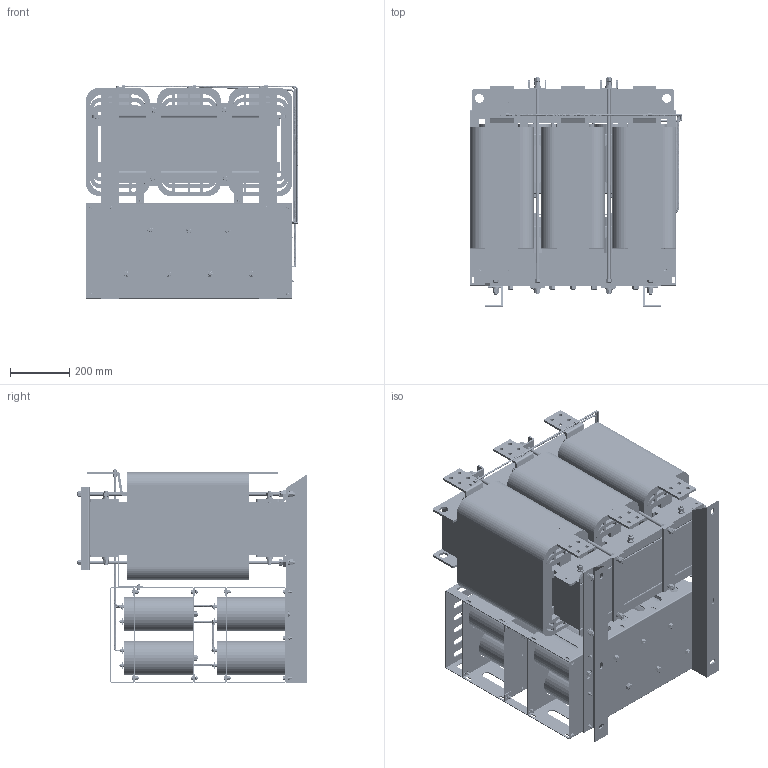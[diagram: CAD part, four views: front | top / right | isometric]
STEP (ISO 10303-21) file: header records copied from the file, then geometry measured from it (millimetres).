
FILE_DESCRIPTION(('STEP AP203'), '1');
FILE_NAME('蔓躅漤铋 耔眢耥 翳朦蝠 _ ISINOF-900_980-6', '', ('UNSPECIFIED'), ('UNSPECIFIED'), 'C3D Converter', 'C3D Toolkit', '');
FILE_SCHEMA(('CONFIG_CONTROL_DESIGN'));
Length unit declared in the file: millimetre
Products named in the file (53): ISINOF-900/980-6; UРНС№Мх 60x30x6; 愧X2\0437\X0\琵X2\0410\X0\ іЕМх; №么X2\04270426041C0445\X0\12x10x410; А降еМх660-110-2; А降еМх琵X2\0436\X0\豹X2\0435\X0\; ЖЅ豹X2\043504560415\X0\豹X2\0435\X0\30X12X410; ЖЅ豹X2\043504560415\X0\豹X2\0435\X0\50X20X410; ИэПаМъРѕ590-660-176; ПЯИ¦940A; ЙПјРјю; ПВјРјю; С№豹X2\0435\X0\; 琵X2\04270405041504230422\X0\; 琵X2\04270405041504270443\X0\; plain washers--product grade c gb_GB_FASTENER_WASHER_SMWC 12; spring lock washers--normal type gb_GB_FASTENER_WASHER_SW 12; hexagon nuts grade c gb_GB_FASTENER_NUT_SNC1 M12-N; hex head bolts-full thread grade c gb_GB_FASTENER_BOLT_HHBFTC M12X40-N; M12X250; M12X730; 吒X2\0425\X0\116-230; 琵X2\04370418042D0458042C\X0\; Ц吭X2\0458042C\X0\; LРНіЕМх; ёЗЧУ; plain washers--product grade c gb_GB_FASTENER_WASHER_SMWC 6; spring lock washers--normal type gb_GB_FASTENER_WASHER_SW 6; hexagon nuts grade c gb_GB_FASTENER_NUT_SNC1 M6-N; hex head bolts-full thread grade c gb_GB_FASTENER_BOLT_HHBFTC M6X20-N; ёІН苒X2\04120411041504150419041F\X0\; ДёЕЕПВ; Б枯X2\04050423\X0\豹X2\0435\X0\; RNB14-6S; Б枯X2\04050423\X0\豹X2\0435\X0\2; hex head bolts-full thread grade c gb_GB_FASTENER_BOLT_HHBFTC M6X25-N; hex head bolts-full thread grade c gb_GB_FASTENER_BOLT_HHBFTC M6X16-N; Cable_1-ИэПаХэПТІЁВЛІЁЖч SKS-SF-0940-6AЈЇ05; 琵X2\043704100412\X0\^Cable_1-ИэПаХэПТІЁВЛІЁЖч SKS-SF-0940-6AЈЇ05; Cable_2-ИэПаХэПТІЁВЛІЁЖч SKS-SF-0940-6AЈЇ05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
Assembly tree (481 placements, depth 3):
  ISINOF-900/980-6
    UРНС№Мх 60x30x6  x2
    愧X2\0437\X0\琵X2\0410\X0\ іЕМх  x12
    №么X2\04270426041C0445\X0\12x10x410  x24
    А降еМх660-110-2  x6
    А降еМх琵X2\0436\X0\豹X2\0435\X0\  x8
    ЖЅ豹X2\043504560415\X0\豹X2\0435\X0\30X12X410  x12
    ЖЅ豹X2\043504560415\X0\豹X2\0435\X0\50X20X410  x6
    ИэПаМъРѕ590-660-176
    ПЯИ¦940A  x3
    ЙПјРјю  x2
    ПВјРјю
    С№豹X2\0435\X0\  x2
    琵X2\04270405041504230422\X0\
    琵X2\04270405041504270443\X0\
    plain washers--product grade c gb_GB_FASTENER_WASHER_SMWC 12  x48
    spring lock washers--normal type gb_GB_FASTENER_WASHER_SW 12  x24
    hexagon nuts grade c gb_GB_FASTENER_NUT_SNC1 M12-N  x50
    hex head bolts-full thread grade c gb_GB_FASTENER_BOLT_HHBFTC M12X40-N  x4
    M12X250  x6
    M12X730  x4
    吒X2\0425\X0\116-230  x18
    琵X2\04370418042D0458042C\X0\  x2
    Ц吭X2\0458042C\X0\  x4
    LРНіЕМх  x2
    ёЗЧУ
    plain washers--product grade c gb_GB_FASTENER_WASHER_SMWC 6  x87
    spring lock washers--normal type gb_GB_FASTENER_WASHER_SW 6  x23
    hexagon nuts grade c gb_GB_FASTENER_NUT_SNC1 M6-N  x23
    hex head bolts-full thread grade c gb_GB_FASTENER_BOLT_HHBFTC M6X20-N  x16
    ёІН苒X2\04120411041504150419041F\X0\  x3
    ДёЕЕПВ  x3
    Б枯X2\04050423\X0\豹X2\0435\X0\  x4
    RNB14-6S  x11
    Б枯X2\04050423\X0\豹X2\0435\X0\2  x4
    hex head bolts-full thread grade c gb_GB_FASTENER_BOLT_HHBFTC M6X25-N  x45
    hex head bolts-full thread grade c gb_GB_FASTENER_BOLT_HHBFTC M6X16-N  x2
    Cable_1-ИэПаХэПТІЁВЛІЁЖч SKS-SF-0940-6AЈЇ05
      琵X2\043704100412\X0\^Cable_1-ИэПаХэПТІЁВЛІЁЖч SKS-SF-0940-6AЈЇ05
    Cable_2-ИэПаХэПТІЁВЛІЁЖч SKS-SF-0940-6AЈЇ05
      琵X2\043704100412\X0\^Cable_2-ИэПаХэПТІЁВЛІЁЖч SKS-SF-0940-6AЈЇ05
    Cable_3-ИэПаХэПТІЁВЛІЁЖч SKS-SF-0940-6AЈЇ05
      琵X2\043704100412\X0\^Cable_3-ИэПаХэПТІЁВЛІЁЖч SKS-SF-0940-6AЈЇ05
    Cable_4-ИэПаХэПТІЁВЛІЁЖч SKS-SF-0940-6AЈЇ05
      琵X2\043704100412\X0\^Cable_4-ИэПаХэПТІЁВЛІЁЖч SKS-SF-0940-6AЈЇ05
    Cable_5-ИэПаХэПТІЁВЛІЁЖч SKS-SF-0940-6AЈЇ05
      琵X2\043704100412\X0\^Cable_5-ИэПаХэПТІЁВЛІЁЖч SKS-SF-0940-6AЈЇ05
    Cable_6-ИэПаХэПТІЁВЛІЁЖч SKS-SF-0940-6AЈЇ05
      琵X2\043704100412\X0\^Cable_6-ИэПаХэПТІЁВЛІЁЖч SKS-SF-0940-6AЈЇ05
    L1 L2 L3МщЦЅ
    L1ЎЇ L2Ўｮ L3ЎЇМщЦЅ
    琵X2\0428\X0\崤X2\043A\X0\
    ПВјРјю610-100-8 ЅУ琵X2\0428\X0\
Bounding box: 714.7 x 771 x 719 mm (x, y, z)
Volume: 156180138.8 mm3; surface area: 17988494.4 mm2
Topology: 514 solids, 514 shells, 6111 faces, 13417 edges, 8703 vertices
Faces by surface type: plane 3613, cylinder 1707, cone 728, torus 36, bspline 27
Full cylindrical faces by diameter (mm): 4.917 x23, 6 x133, 6.2 x11, 6.4 x11, 6.6 x87, 6.68 x23, 8 x64, 9.88 x23, 10 x38, 10.106 x50, 12 x139, 12.9 x24, 13 x24, 13.5 x48, 14 x71, 16 x15, 19.1 x24, 24 x48, 30 x4, 36.4 x1, 38 x1, 40 x1, 63 x6, 75 x6, 112 x18, 116 x36, 120 x18
Entity records: 68405 total; most frequent: CARTESIAN_POINT 18425, DIRECTION 6495, ORIENTED_EDGE 5394, EDGE_CURVE 2697, AXIS2_PLACEMENT_3D 2405, VERTEX_POINT 1894, EDGE_LOOP 1709, LINE 1685
